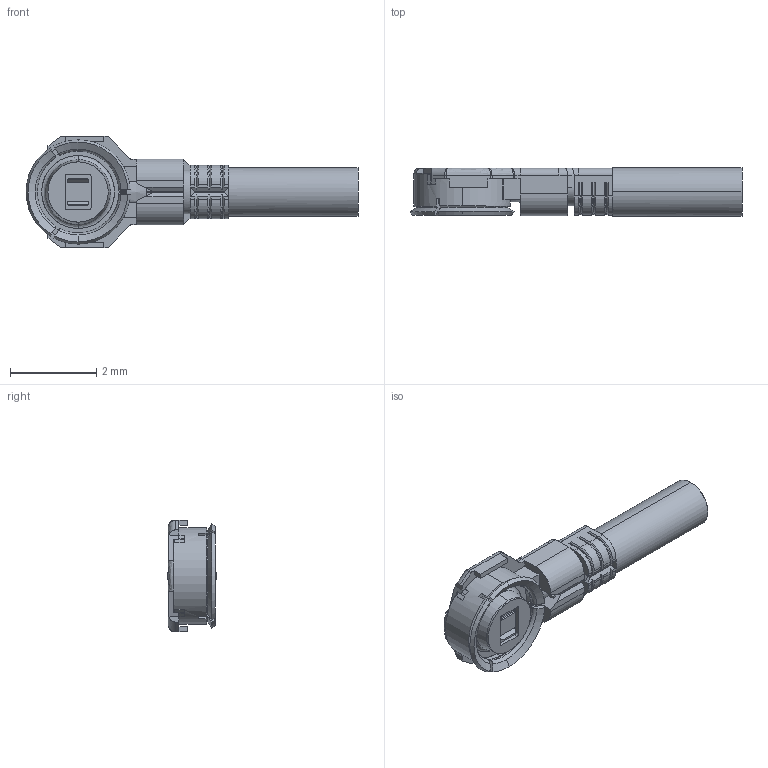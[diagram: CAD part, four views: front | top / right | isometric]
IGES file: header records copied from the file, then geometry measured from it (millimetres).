
Start section: SolidWorks IGES file using analytic representation for surfaces
Global section: file name: C:\3dwork\imaji\MHF-A\MHF-A13\20428C PLUG IGES R3 ALL.IGS; native system: SolidWorks 2017; preprocessor: SolidWorks 2017; author: ipxcad-013; date: 181212.141408; units: millimetre
Bounding box: 7.71 x 1.13 x 2.6 mm (x, y, z)
Surface area: 48.6 mm2 (no closed solid volume)
Topology: 0 solids, 0 shells, 356 faces, 2176 edges, 2170 vertices
Faces by surface type: bspline 225, revolution 131
